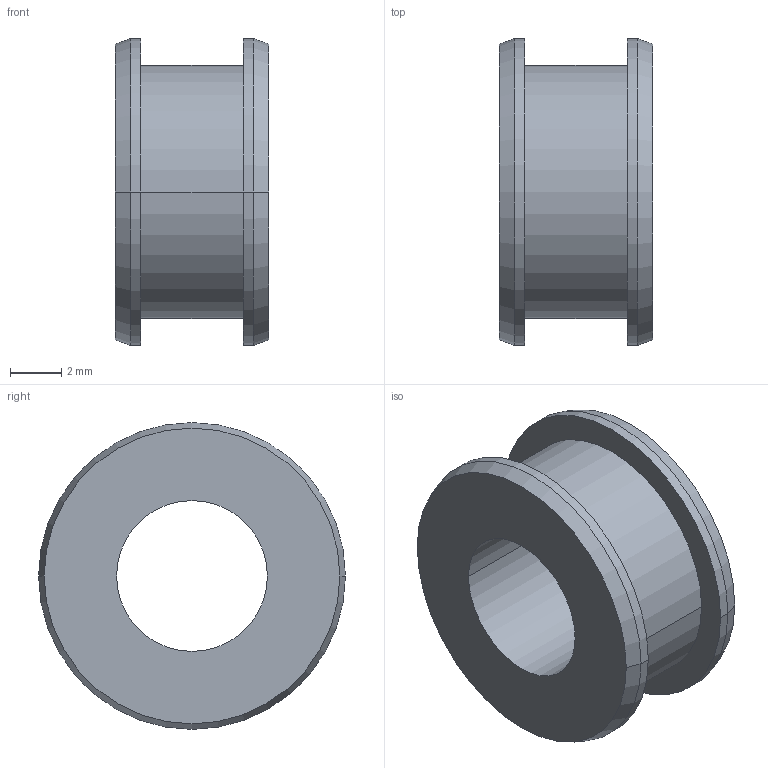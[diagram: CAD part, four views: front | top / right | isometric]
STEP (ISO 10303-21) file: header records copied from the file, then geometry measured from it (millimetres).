
FILE_DESCRIPTION((''),'2;1');
FILE_NAME('0000237155_PRT','2025-11-12T18:34:11',('Wyndorps'),(''),'CREO PARAMETRIC BY PTC INC, 2025010','CREO PARAMETRIC BY PTC INC, 2025010','');
FILE_SCHEMA(('CONFIG_CONTROL_DESIGN'));
Length unit declared in the file: millimetre
Products named in the file (1): 0000237155_PRT
Bounding box: 6 x 12 x 12 mm (x, y, z)
Volume: 365.2 mm3; surface area: 540.6 mm2
Topology: 1 solids, 1 shells, 16 faces, 32 edges, 20 vertices
Faces by surface type: cylinder 8, plane 4, cone 4
Entity records: 466 total; most frequent: DIRECTION 84, CARTESIAN_POINT 68, ORIENTED_EDGE 64, AXIS2_PLACEMENT_3D 36, EDGE_CURVE 32, VERTEX_POINT 20, EDGE_LOOP 20, CIRCLE 20
